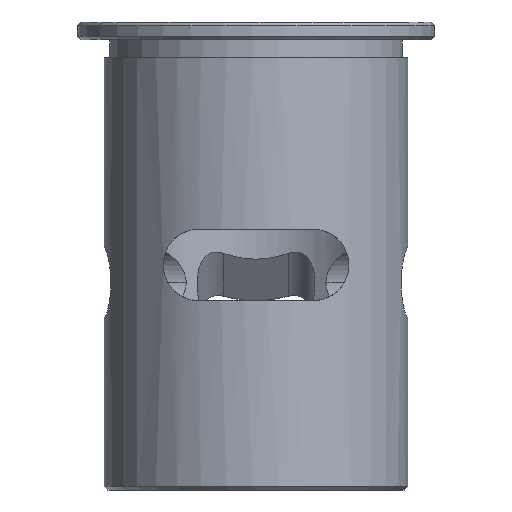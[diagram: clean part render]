
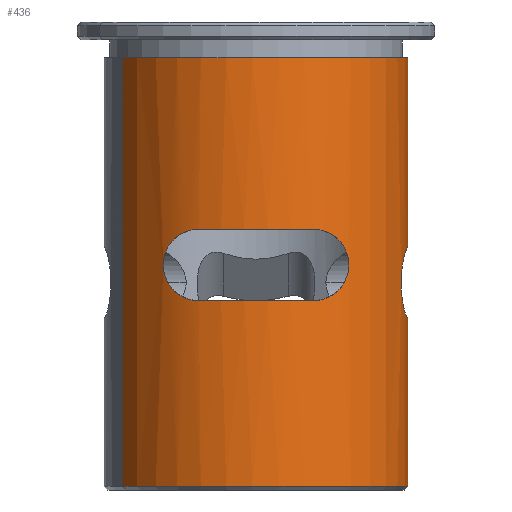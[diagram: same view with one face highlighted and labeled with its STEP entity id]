
A CAD part, left-side view. The second image highlights one B-rep face of the part: STEP entity #436.
In plain terms, the highlighted cylindrical face has radius 8.5 mm (diameter 17 mm), a partial arc.
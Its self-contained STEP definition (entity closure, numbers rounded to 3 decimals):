
#55=AXIS2_PLACEMENT_3D('Circle Axis2P3D',#53,#54,$) ;
#268=AXIS2_PLACEMENT_3D('Cylinder Axis2P3D',#265,#266,#267) ;
#289=AXIS2_PLACEMENT_3D('Circle Axis2P3D',#287,#288,$) ;
#316=AXIS2_PLACEMENT_3D('Circle Axis2P3D',#314,#315,$) ;
#345=AXIS2_PLACEMENT_3D('Circle Axis2P3D',#343,#344,$) ;
#359=AXIS2_PLACEMENT_3D('Circle Axis2P3D',#357,#358,$) ;
#412=AXIS2_PLACEMENT_3D('Circle Axis2P3D',#410,#411,$) ;
#50=CARTESIAN_POINT('Vertex',(-7.875,3.2,-15.6)) ;
#53=CARTESIAN_POINT('Axis2P3D Location',(0.,0.,-15.6)) ;
#57=CARTESIAN_POINT('Vertex',(-7.875,-3.2,-15.6)) ;
#244=CARTESIAN_POINT('Vertex',(-6.724,5.2,-13.6)) ;
#248=CARTESIAN_POINT('Control Point',(-6.724,5.2,-13.6)) ;
#249=CARTESIAN_POINT('Control Point',(-6.724,5.2,-13.922)) ;
#250=CARTESIAN_POINT('Control Point',(-6.774,5.135,-14.244)) ;
#251=CARTESIAN_POINT('Control Point',(-6.873,5.007,-14.535)) ;
#252=CARTESIAN_POINT('Control Point',(-7.126,4.651,-15.061)) ;
#253=CARTESIAN_POINT('Control Point',(-7.433,4.142,-15.406)) ;
#254=CARTESIAN_POINT('Control Point',(-7.592,3.846,-15.533)) ;
#255=CARTESIAN_POINT('Control Point',(-7.742,3.527,-15.6)) ;
#256=CARTESIAN_POINT('Control Point',(-7.875,3.2,-15.6)) ;
#265=CARTESIAN_POINT('Axis2P3D Location',(0.,0.,-13.1)) ;
#270=CARTESIAN_POINT('Line Origine',(4.075,-7.459,-14.)) ;
#274=CARTESIAN_POINT('Vertex',(4.075,-7.459,-16.516)) ;
#276=CARTESIAN_POINT('Vertex',(4.075,-7.459,-16.6)) ;
#280=CARTESIAN_POINT('Control Point',(4.075,-7.459,-16.516)) ;
#281=CARTESIAN_POINT('Control Point',(3.891,-7.56,-16.571)) ;
#282=CARTESIAN_POINT('Control Point',(3.697,-7.657,-16.6)) ;
#283=CARTESIAN_POINT('Control Point',(3.5,-7.746,-16.6)) ;
#284=CARTESIAN_POINT('Vertex',(3.5,-7.746,-16.6)) ;
#287=CARTESIAN_POINT('Axis2P3D Location',(0.,0.,-16.6)) ;
#291=CARTESIAN_POINT('Vertex',(-0.403,-8.49,-16.6)) ;
#295=CARTESIAN_POINT('Control Point',(-0.403,-8.49,-16.6)) ;
#296=CARTESIAN_POINT('Control Point',(-1.054,-8.46,-16.6)) ;
#297=CARTESIAN_POINT('Control Point',(-1.705,-8.369,-16.396)) ;
#298=CARTESIAN_POINT('Control Point',(-2.245,-8.204,-15.907)) ;
#299=CARTESIAN_POINT('Control Point',(-2.5,-8.124,-15.252)) ;
#300=CARTESIAN_POINT('Control Point',(-2.5,-8.124,-14.6)) ;
#301=CARTESIAN_POINT('Vertex',(-2.5,-8.124,-14.6)) ;
#305=CARTESIAN_POINT('Control Point',(-0.403,-8.49,-12.6)) ;
#306=CARTESIAN_POINT('Control Point',(-1.054,-8.46,-12.6)) ;
#307=CARTESIAN_POINT('Control Point',(-1.705,-8.369,-12.804)) ;
#308=CARTESIAN_POINT('Control Point',(-2.245,-8.204,-13.293)) ;
#309=CARTESIAN_POINT('Control Point',(-2.5,-8.124,-13.948)) ;
#310=CARTESIAN_POINT('Control Point',(-2.5,-8.124,-14.6)) ;
#311=CARTESIAN_POINT('Vertex',(-0.403,-8.49,-12.6)) ;
#314=CARTESIAN_POINT('Axis2P3D Location',(0.,0.,-12.6)) ;
#318=CARTESIAN_POINT('Vertex',(3.5,-7.746,-12.6)) ;
#322=CARTESIAN_POINT('Control Point',(4.075,-7.459,-12.684)) ;
#323=CARTESIAN_POINT('Control Point',(3.891,-7.56,-12.629)) ;
#324=CARTESIAN_POINT('Control Point',(3.697,-7.657,-12.6)) ;
#325=CARTESIAN_POINT('Control Point',(3.5,-7.746,-12.6)) ;
#326=CARTESIAN_POINT('Vertex',(4.075,-7.459,-12.684)) ;
#329=CARTESIAN_POINT('Line Origine',(4.075,-7.459,-14.)) ;
#333=CARTESIAN_POINT('Vertex',(4.075,-7.459,-12.6)) ;
#336=CARTESIAN_POINT('Line Origine',(4.075,-7.459,-14.)) ;
#340=CARTESIAN_POINT('Vertex',(4.075,-7.459,-2.)) ;
#343=CARTESIAN_POINT('Axis2P3D Location',(0.,0.,-2.)) ;
#347=CARTESIAN_POINT('Vertex',(-4.075,7.459,-2.)) ;
#350=CARTESIAN_POINT('Line Origine',(-4.075,7.459,-14.)) ;
#354=CARTESIAN_POINT('Vertex',(-4.075,7.459,-26.)) ;
#357=CARTESIAN_POINT('Axis2P3D Location',(0.,0.,-26.)) ;
#361=CARTESIAN_POINT('Vertex',(4.075,-7.459,-26.)) ;
#364=CARTESIAN_POINT('Line Origine',(4.075,-7.459,-14.)) ;
#385=CARTESIAN_POINT('Control Point',(-6.724,-5.2,-13.6)) ;
#386=CARTESIAN_POINT('Control Point',(-6.724,-5.2,-13.922)) ;
#387=CARTESIAN_POINT('Control Point',(-6.774,-5.135,-14.244)) ;
#388=CARTESIAN_POINT('Control Point',(-6.873,-5.007,-14.535)) ;
#389=CARTESIAN_POINT('Control Point',(-7.126,-4.651,-15.061)) ;
#390=CARTESIAN_POINT('Control Point',(-7.433,-4.142,-15.406)) ;
#391=CARTESIAN_POINT('Control Point',(-7.592,-3.846,-15.533)) ;
#392=CARTESIAN_POINT('Control Point',(-7.742,-3.527,-15.6)) ;
#393=CARTESIAN_POINT('Control Point',(-7.875,-3.2,-15.6)) ;
#394=CARTESIAN_POINT('Vertex',(-6.724,-5.2,-13.6)) ;
#398=CARTESIAN_POINT('Control Point',(-6.724,5.2,-13.6)) ;
#399=CARTESIAN_POINT('Control Point',(-6.724,5.2,-13.278)) ;
#400=CARTESIAN_POINT('Control Point',(-6.774,5.135,-12.956)) ;
#401=CARTESIAN_POINT('Control Point',(-6.873,5.007,-12.665)) ;
#402=CARTESIAN_POINT('Control Point',(-7.126,4.651,-12.139)) ;
#403=CARTESIAN_POINT('Control Point',(-7.433,4.142,-11.794)) ;
#404=CARTESIAN_POINT('Control Point',(-7.592,3.846,-11.667)) ;
#405=CARTESIAN_POINT('Control Point',(-7.742,3.527,-11.6)) ;
#406=CARTESIAN_POINT('Control Point',(-7.875,3.2,-11.6)) ;
#407=CARTESIAN_POINT('Vertex',(-7.875,3.2,-11.6)) ;
#410=CARTESIAN_POINT('Axis2P3D Location',(0.,0.,-11.6)) ;
#414=CARTESIAN_POINT('Vertex',(-7.875,-3.2,-11.6)) ;
#418=CARTESIAN_POINT('Control Point',(-6.724,-5.2,-13.6)) ;
#419=CARTESIAN_POINT('Control Point',(-6.724,-5.2,-13.278)) ;
#420=CARTESIAN_POINT('Control Point',(-6.774,-5.135,-12.956)) ;
#421=CARTESIAN_POINT('Control Point',(-6.873,-5.007,-12.665)) ;
#422=CARTESIAN_POINT('Control Point',(-7.126,-4.651,-12.139)) ;
#423=CARTESIAN_POINT('Control Point',(-7.433,-4.142,-11.794)) ;
#424=CARTESIAN_POINT('Control Point',(-7.592,-3.846,-11.667)) ;
#425=CARTESIAN_POINT('Control Point',(-7.742,-3.527,-11.6)) ;
#426=CARTESIAN_POINT('Control Point',(-7.875,-3.2,-11.6)) ;
#54=DIRECTION('Axis2P3D Direction',(0.,0.,1.)) ;
#266=DIRECTION('Axis2P3D Direction',(0.,0.,1.)) ;
#267=DIRECTION('Axis2P3D XDirection',(-0.479,0.878,0.)) ;
#271=DIRECTION('Vector Direction',(0.,0.,1.)) ;
#288=DIRECTION('Axis2P3D Direction',(0.,0.,1.)) ;
#315=DIRECTION('Axis2P3D Direction',(0.,0.,1.)) ;
#330=DIRECTION('Vector Direction',(0.,0.,1.)) ;
#337=DIRECTION('Vector Direction',(0.,0.,1.)) ;
#344=DIRECTION('Axis2P3D Direction',(0.,0.,1.)) ;
#351=DIRECTION('Vector Direction',(0.,0.,1.)) ;
#358=DIRECTION('Axis2P3D Direction',(0.,0.,1.)) ;
#365=DIRECTION('Vector Direction',(0.,0.,1.)) ;
#411=DIRECTION('Axis2P3D Direction',(0.,0.,1.)) ;
#272=VECTOR('Line Direction',#271,1.) ;
#331=VECTOR('Line Direction',#330,1.) ;
#338=VECTOR('Line Direction',#337,1.) ;
#352=VECTOR('Line Direction',#351,1.) ;
#366=VECTOR('Line Direction',#365,1.) ;
#370=ORIENTED_EDGE('',*,*,#278,.F.) ;
#371=ORIENTED_EDGE('',*,*,#286,.T.) ;
#372=ORIENTED_EDGE('',*,*,#293,.F.) ;
#373=ORIENTED_EDGE('',*,*,#303,.T.) ;
#374=ORIENTED_EDGE('',*,*,#313,.T.) ;
#375=ORIENTED_EDGE('',*,*,#320,.T.) ;
#376=ORIENTED_EDGE('',*,*,#328,.T.) ;
#377=ORIENTED_EDGE('',*,*,#335,.T.) ;
#378=ORIENTED_EDGE('',*,*,#342,.F.) ;
#379=ORIENTED_EDGE('',*,*,#349,.F.) ;
#380=ORIENTED_EDGE('',*,*,#356,.T.) ;
#381=ORIENTED_EDGE('',*,*,#363,.T.) ;
#382=ORIENTED_EDGE('',*,*,#368,.F.) ;
#429=ORIENTED_EDGE('',*,*,#396,.T.) ;
#430=ORIENTED_EDGE('',*,*,#59,.F.) ;
#431=ORIENTED_EDGE('',*,*,#257,.F.) ;
#432=ORIENTED_EDGE('',*,*,#409,.T.) ;
#433=ORIENTED_EDGE('',*,*,#416,.F.) ;
#434=ORIENTED_EDGE('',*,*,#427,.F.) ;
#435=FACE_BOUND('',#428,.T.) ;
#436=ADVANCED_FACE('',(#383,#435),#269,.T.) ;
#247=B_SPLINE_CURVE_WITH_KNOTS('',5,(#248,#249,#250,#251,#252,#253,#254,#255,#256),.UNSPECIFIED.,.F.,.U.,(6,3,6),(0.,2.277,4.769),.UNSPECIFIED.) ;
#279=B_SPLINE_CURVE_WITH_KNOTS('',3,(#280,#281,#282,#283),.UNSPECIFIED.,.F.,.U.,(4,4),(0.,0.919),.UNSPECIFIED.) ;
#294=B_SPLINE_CURVE_WITH_KNOTS('',5,(#295,#296,#297,#298,#299,#300),.UNSPECIFIED.,.F.,.U.,(6,6),(0.,4.61),.UNSPECIFIED.) ;
#304=B_SPLINE_CURVE_WITH_KNOTS('',5,(#305,#306,#307,#308,#309,#310),.UNSPECIFIED.,.F.,.U.,(6,6),(0.,4.61),.UNSPECIFIED.) ;
#321=B_SPLINE_CURVE_WITH_KNOTS('',3,(#322,#323,#324,#325),.UNSPECIFIED.,.F.,.U.,(4,4),(0.,0.919),.UNSPECIFIED.) ;
#384=B_SPLINE_CURVE_WITH_KNOTS('',5,(#385,#386,#387,#388,#389,#390,#391,#392,#393),.UNSPECIFIED.,.F.,.U.,(6,3,6),(0.,2.277,4.769),.UNSPECIFIED.) ;
#397=B_SPLINE_CURVE_WITH_KNOTS('',5,(#398,#399,#400,#401,#402,#403,#404,#405,#406),.UNSPECIFIED.,.F.,.U.,(6,3,6),(0.,2.277,4.769),.UNSPECIFIED.) ;
#417=B_SPLINE_CURVE_WITH_KNOTS('',5,(#418,#419,#420,#421,#422,#423,#424,#425,#426),.UNSPECIFIED.,.F.,.U.,(6,3,6),(0.,2.277,4.769),.UNSPECIFIED.) ;
#56=CIRCLE('generated circle',#55,8.5) ;
#290=CIRCLE('generated circle',#289,8.5) ;
#317=CIRCLE('generated circle',#316,8.5) ;
#346=CIRCLE('generated circle',#345,8.5) ;
#360=CIRCLE('generated circle',#359,8.5) ;
#413=CIRCLE('generated circle',#412,8.5) ;
#269=CYLINDRICAL_SURFACE('generated cylinder',#268,8.5) ;
#59=EDGE_CURVE('',#51,#58,#56,.T.) ;
#257=EDGE_CURVE('',#245,#51,#247,.T.) ;
#278=EDGE_CURVE('',#275,#277,#273,.F.) ;
#286=EDGE_CURVE('',#275,#285,#279,.T.) ;
#293=EDGE_CURVE('',#292,#285,#290,.T.) ;
#303=EDGE_CURVE('',#292,#302,#294,.T.) ;
#313=EDGE_CURVE('',#302,#312,#304,.F.) ;
#320=EDGE_CURVE('',#312,#319,#317,.T.) ;
#328=EDGE_CURVE('',#319,#327,#321,.F.) ;
#335=EDGE_CURVE('',#327,#334,#332,.T.) ;
#342=EDGE_CURVE('',#341,#334,#339,.F.) ;
#349=EDGE_CURVE('',#348,#341,#346,.T.) ;
#356=EDGE_CURVE('',#348,#355,#353,.F.) ;
#363=EDGE_CURVE('',#355,#362,#360,.T.) ;
#368=EDGE_CURVE('',#277,#362,#367,.F.) ;
#396=EDGE_CURVE('',#395,#58,#384,.T.) ;
#409=EDGE_CURVE('',#245,#408,#397,.T.) ;
#416=EDGE_CURVE('',#415,#408,#413,.F.) ;
#427=EDGE_CURVE('',#395,#415,#417,.T.) ;
#369=EDGE_LOOP('',(#370,#371,#372,#373,#374,#375,#376,#377,#378,#379,#380,#381,#382)) ;
#428=EDGE_LOOP('',(#429,#430,#431,#432,#433,#434)) ;
#383=FACE_OUTER_BOUND('',#369,.T.) ;
#273=LINE('Line',#270,#272) ;
#332=LINE('Line',#329,#331) ;
#339=LINE('Line',#336,#338) ;
#353=LINE('Line',#350,#352) ;
#367=LINE('Line',#364,#366) ;
#51=VERTEX_POINT('',#50) ;
#58=VERTEX_POINT('',#57) ;
#245=VERTEX_POINT('',#244) ;
#275=VERTEX_POINT('',#274) ;
#277=VERTEX_POINT('',#276) ;
#285=VERTEX_POINT('',#284) ;
#292=VERTEX_POINT('',#291) ;
#302=VERTEX_POINT('',#301) ;
#312=VERTEX_POINT('',#311) ;
#319=VERTEX_POINT('',#318) ;
#327=VERTEX_POINT('',#326) ;
#334=VERTEX_POINT('',#333) ;
#341=VERTEX_POINT('',#340) ;
#348=VERTEX_POINT('',#347) ;
#355=VERTEX_POINT('',#354) ;
#362=VERTEX_POINT('',#361) ;
#395=VERTEX_POINT('',#394) ;
#408=VERTEX_POINT('',#407) ;
#415=VERTEX_POINT('',#414) ;
